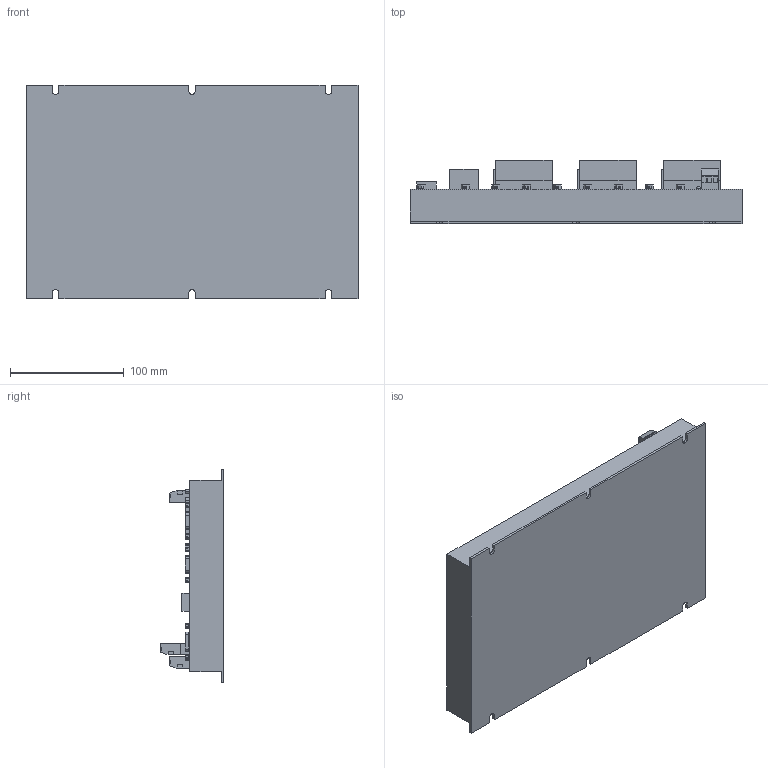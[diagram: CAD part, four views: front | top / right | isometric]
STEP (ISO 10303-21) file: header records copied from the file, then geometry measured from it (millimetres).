
FILE_DESCRIPTION (( 'STEP AP214' ), '1' );
FILE_NAME ('ECI3000炵蹈.STEP', '2018-08-24T08:46:20', ( 'Microsoft' ), ( ' ' ), 'SwSTEP 2.0', 'SolidWorks 2014', '' );
FILE_SCHEMA (( 'AUTOMOTIVE_DESIGN' ));
Length unit declared in the file: millimetre
Products named in the file (11): 傷赽-湮-5; 三连灯; 腑; 傷赽-湮-10; 25渀-2齬-譫芛; 厙諳-傻; 傷赽-湮-3; 9渀-2齬-譫芛; 9渀-2齬-鼠芛; ECI3000-俋褲; ECI3000炵蹈
Assembly tree (25 placements, depth 3):
  ECI3000炵蹈
    ECI3000-俋褲
    9渀-2齬-鼠芛
    9渀-2齬-譫芛  x2
    傷赽-湮-3
    厙諳-傻
    25渀-2齬-譫芛  x8
    傷赽-湮-10  x6
    三连灯
      腑  x3
    傷赽-湮-5
Bounding box: 292 x 56 x 188 mm (x, y, z)
Volume: 1559220.3 mm3; surface area: 181318.1 mm2
Topology: 96 solids, 96 shells, 3372 faces, 8382 edges, 5585 vertices
Faces by surface type: plane 2270, cylinder 708, bspline 388, sphere 6
Entity records: 91000 total; most frequent: CARTESIAN_POINT 28264, ORIENTED_EDGE 10156, DIRECTION 7812, EDGE_CURVE 5078, LINE 3898, VECTOR 3898, VERTEX_POINT 3385, EDGE_LOOP 2015
